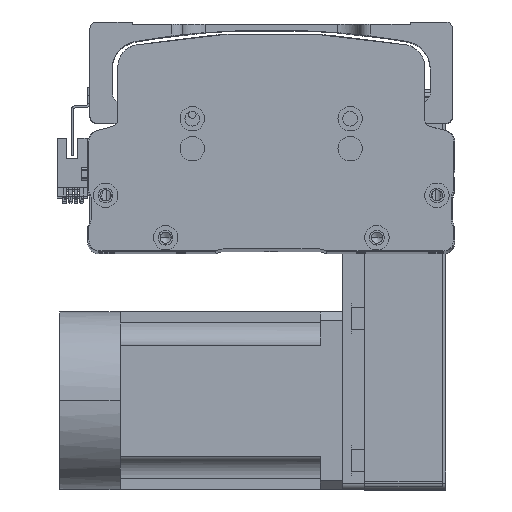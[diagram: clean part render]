
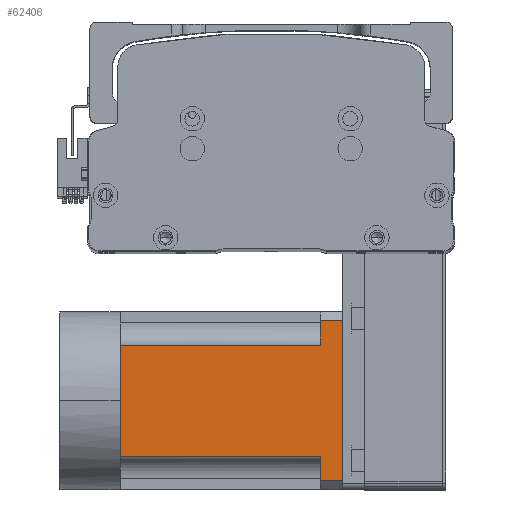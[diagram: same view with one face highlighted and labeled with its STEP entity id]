
A CAD part, top view. The second image highlights one B-rep face of the part: STEP entity #62406.
In plain terms, the highlighted planar face has unit normal (0, 0, 1) as drawn and (0, 0, -1) by its records, which use the part's own axes.
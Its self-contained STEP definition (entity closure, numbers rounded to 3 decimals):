
#143 = VERTEX_POINT ( 'NONE', #43071 ) ;
#1020 = PLANE ( 'NONE',  #3712 ) ;
#2262 = EDGE_CURVE ( 'NONE', #15860, #46975, #49713, .T. ) ;
#2742 = LINE ( 'NONE', #38068, #28461 ) ;
#3712 = AXIS2_PLACEMENT_3D ( 'NONE', #5638, #44535, #15603 ) ;
#4255 = DIRECTION ( 'NONE',  ( 0., 1., 0. ) ) ;
#4811 = CARTESIAN_POINT ( 'NONE',  ( -40., 90., -40. ) ) ;
#4918 = EDGE_CURVE ( 'NONE', #35031, #49585, #17666, .T. ) ;
#5337 = FACE_OUTER_BOUND ( 'NONE', #8665, .T. ) ;
#5638 = CARTESIAN_POINT ( 'NONE',  ( -40., -27., -40. ) ) ;
#8665 = EDGE_LOOP ( 'NONE', ( #44417, #12509, #16216, #14351, #37275, #19148, #46624, #50314, #43569 ) ) ;
#12509 = ORIENTED_EDGE ( 'NONE', *, *, #23493, .T. ) ;
#13050 = DIRECTION ( 'NONE',  ( -1., 0., 0. ) ) ;
#14351 = ORIENTED_EDGE ( 'NONE', *, *, #33128, .T. ) ;
#15603 = DIRECTION ( 'NONE',  ( -1., 0., 0. ) ) ;
#15860 = VERTEX_POINT ( 'NONE', #49497 ) ;
#15988 = CARTESIAN_POINT ( 'NONE',  ( 25., -27., -40. ) ) ;
#16216 = ORIENTED_EDGE ( 'NONE', *, *, #58503, .T. ) ;
#16676 = LINE ( 'NONE', #20542, #42398 ) ;
#17344 = DIRECTION ( 'NONE',  ( -1., 0., 0. ) ) ;
#17666 = LINE ( 'NONE', #61509, #28984 ) ;
#19148 = ORIENTED_EDGE ( 'NONE', *, *, #58908, .T. ) ;
#20212 = VECTOR ( 'NONE', #13050, 1000. ) ;
#20542 = CARTESIAN_POINT ( 'NONE',  ( -40., 0., -40. ) ) ;
#20752 = DIRECTION ( 'NONE',  ( 0., 1., 0. ) ) ;
#20873 = DIRECTION ( 'NONE',  ( 0., -1., 0. ) ) ;
#22004 = CARTESIAN_POINT ( 'NONE',  ( 0., 0., -40. ) ) ;
#22418 = CARTESIAN_POINT ( 'NONE',  ( -25., 0., -40. ) ) ;
#23493 = EDGE_CURVE ( 'NONE', #15860, #32028, #45968, .T. ) ;
#27597 = VERTEX_POINT ( 'NONE', #22004 ) ;
#27759 = DIRECTION ( 'NONE',  ( 0., -1., 0. ) ) ;
#28461 = VECTOR ( 'NONE', #4255, 1000. ) ;
#28984 = VECTOR ( 'NONE', #51811, 1000. ) ;
#30273 = EDGE_CURVE ( 'NONE', #54560, #35031, #44236, .T. ) ;
#30865 = CARTESIAN_POINT ( 'NONE',  ( -36., 100., -40. ) ) ;
#31373 = VECTOR ( 'NONE', #20752, 1000. ) ;
#31443 = CARTESIAN_POINT ( 'NONE',  ( -25., 90., -40. ) ) ;
#32028 = VERTEX_POINT ( 'NONE', #45539 ) ;
#33128 = EDGE_CURVE ( 'NONE', #47705, #143, #33992, .T. ) ;
#33138 = LINE ( 'NONE', #4811, #46028 ) ;
#33789 = DIRECTION ( 'NONE',  ( -1., 0., 0. ) ) ;
#33992 = LINE ( 'NONE', #15988, #56697 ) ;
#34593 = LINE ( 'NONE', #42012, #20212 ) ;
#35031 = VERTEX_POINT ( 'NONE', #31443 ) ;
#36567 = CARTESIAN_POINT ( 'NONE',  ( -40., 100., -40. ) ) ;
#36864 = VECTOR ( 'NONE', #17344, 1000. ) ;
#37275 = ORIENTED_EDGE ( 'NONE', *, *, #47877, .T. ) ;
#38068 = CARTESIAN_POINT ( 'NONE',  ( -36., -27., -40. ) ) ;
#38329 = CARTESIAN_POINT ( 'NONE',  ( -36., 90., -40. ) ) ;
#39084 = EDGE_CURVE ( 'NONE', #49585, #46975, #2742, .T. ) ;
#42012 = CARTESIAN_POINT ( 'NONE',  ( -40., 0., -40. ) ) ;
#42398 = VECTOR ( 'NONE', #54339, 1000. ) ;
#43071 = CARTESIAN_POINT ( 'NONE',  ( 25., 0., -40. ) ) ;
#43569 = ORIENTED_EDGE ( 'NONE', *, *, #39084, .T. ) ;
#44236 = LINE ( 'NONE', #44821, #31373 ) ;
#44405 = VECTOR ( 'NONE', #27759, 1000. ) ;
#44417 = ORIENTED_EDGE ( 'NONE', *, *, #2262, .F. ) ;
#44535 = DIRECTION ( 'NONE',  ( 0., 0., -1. ) ) ;
#44821 = CARTESIAN_POINT ( 'NONE',  ( -25., -27., -40. ) ) ;
#45539 = CARTESIAN_POINT ( 'NONE',  ( 36., 90., -40. ) ) ;
#45968 = LINE ( 'NONE', #56501, #44405 ) ;
#46028 = VECTOR ( 'NONE', #33789, 1000. ) ;
#46624 = ORIENTED_EDGE ( 'NONE', *, *, #30273, .T. ) ;
#46975 = VERTEX_POINT ( 'NONE', #30865 ) ;
#47705 = VERTEX_POINT ( 'NONE', #62382 ) ;
#47877 = EDGE_CURVE ( 'NONE', #143, #27597, #16676, .T. ) ;
#49497 = CARTESIAN_POINT ( 'NONE',  ( 36., 100., -40. ) ) ;
#49585 = VERTEX_POINT ( 'NONE', #38329 ) ;
#49713 = LINE ( 'NONE', #36567, #36864 ) ;
#50314 = ORIENTED_EDGE ( 'NONE', *, *, #4918, .T. ) ;
#51811 = DIRECTION ( 'NONE',  ( -1., 0., 0. ) ) ;
#54339 = DIRECTION ( 'NONE',  ( -1., 0., 0. ) ) ;
#54560 = VERTEX_POINT ( 'NONE', #22418 ) ;
#56501 = CARTESIAN_POINT ( 'NONE',  ( 36., -27., -40. ) ) ;
#56697 = VECTOR ( 'NONE', #20873, 1000. ) ;
#58503 = EDGE_CURVE ( 'NONE', #32028, #47705, #33138, .T. ) ;
#58908 = EDGE_CURVE ( 'NONE', #27597, #54560, #34593, .T. ) ;
#61509 = CARTESIAN_POINT ( 'NONE',  ( -40., 90., -40. ) ) ;
#62382 = CARTESIAN_POINT ( 'NONE',  ( 25., 90., -40. ) ) ;
#62406 = ADVANCED_FACE ( 'NONE', ( #5337 ), #1020, .T. ) ;
